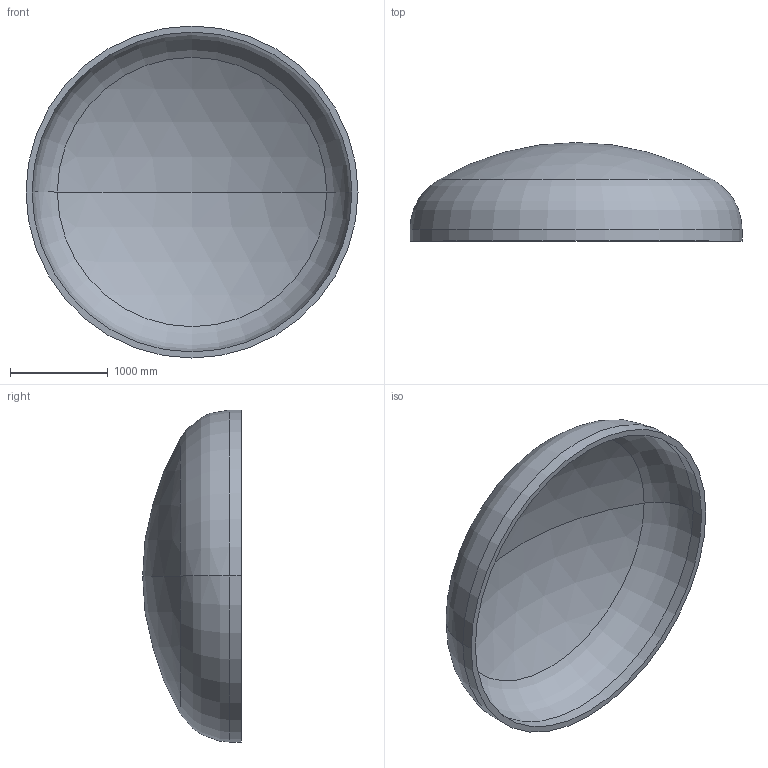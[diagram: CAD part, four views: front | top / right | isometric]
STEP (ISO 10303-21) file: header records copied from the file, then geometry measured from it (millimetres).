
FILE_DESCRIPTION (( 'STEP AP203' ), '1' );
FILE_NAME ('DIN 28013 Korbbogenform_-_Boden DIN 28013 - 3400 x 120 - I - s=62.step', '2016-07-01T19:39:42', ( '' ), ( '' ), 'SwSTEP 2.0', 'SolidWorks 2013', '' );
FILE_SCHEMA (( 'CONFIG_CONTROL_DESIGN' ));
Length unit declared in the file: millimetre
Products named in the file (1): DIN 28013 Korbbogenform_-_Boden DIN 28013 - 3400 x 120 - I - s=62
Bounding box: 3400 x 1010.11 x 3400 mm (x, y, z)
Volume: 839531549.4 mm3; surface area: 27739875.8 mm2
Topology: 1 solids, 1 shells, 13 faces, 24 edges, 14 vertices
Faces by surface type: torus 4, cylinder 4, sphere 4, plane 1
Entity records: 407 total; most frequent: DIRECTION 72, CARTESIAN_POINT 52, ORIENTED_EDGE 48, AXIS2_PLACEMENT_3D 34, EDGE_CURVE 24, CIRCLE 20, VERTEX_POINT 14, EDGE_LOOP 14
